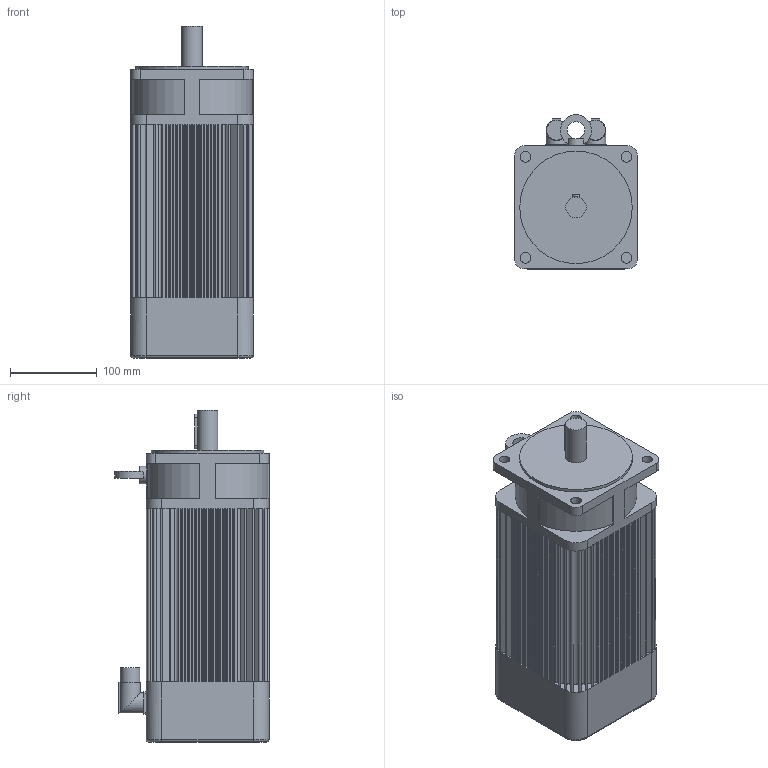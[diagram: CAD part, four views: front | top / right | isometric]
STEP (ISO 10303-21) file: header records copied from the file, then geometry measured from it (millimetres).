
FILE_DESCRIPTION(/* description */ (''),/* implementation_level */ '2;1');
FILE_NAME(/* name */ '\\Lafnas01\disegni\Archivi Lafert\3D\CAD 3D\MODELLI\Assiemi clienti\Serad\Modelli 3D Serad\B71I\Resolver\Res Without Brake\B7124Ixx6A052033.ipt.stp',/* time_stamp */ '2015-09-07T10:52:09+02:00',/* author */ ('Pastrello Ylenia'),/* organization */ (''),/* preprocessor_version */ 'ST-DEVELOPER v15.6',/* originating_system */ 'Autodesk Inventor 2015',/* authorisation */ '');
FILE_SCHEMA (('AUTOMOTIVE_DESIGN { 1 0 10303 214 3 1 1 }'));
Length unit declared in the file: millimetre
Products named in the file (1): B7124Ixx6A052033
Bounding box: 142 x 178 x 383.5 mm (x, y, z)
Volume: 6266536.9 mm3; surface area: 348184.6 mm2
Topology: 1 solids, 1 shells, 547 faces, 1378 edges, 903 vertices
Faces by surface type: plane 430, cylinder 113, torus 4
Full cylindrical faces by diameter (mm): 12.5 x4, 20 x2, 22.7 x2, 24 x3, 130 x1
Entity records: 16305 total; most frequent: CARTESIAN_POINT 2863, DIRECTION 2786, ORIENTED_EDGE 2724, EDGE_CURVE 1362, LINE 1026, VECTOR 1026, VERTEX_POINT 900, AXIS2_PLACEMENT_3D 880
